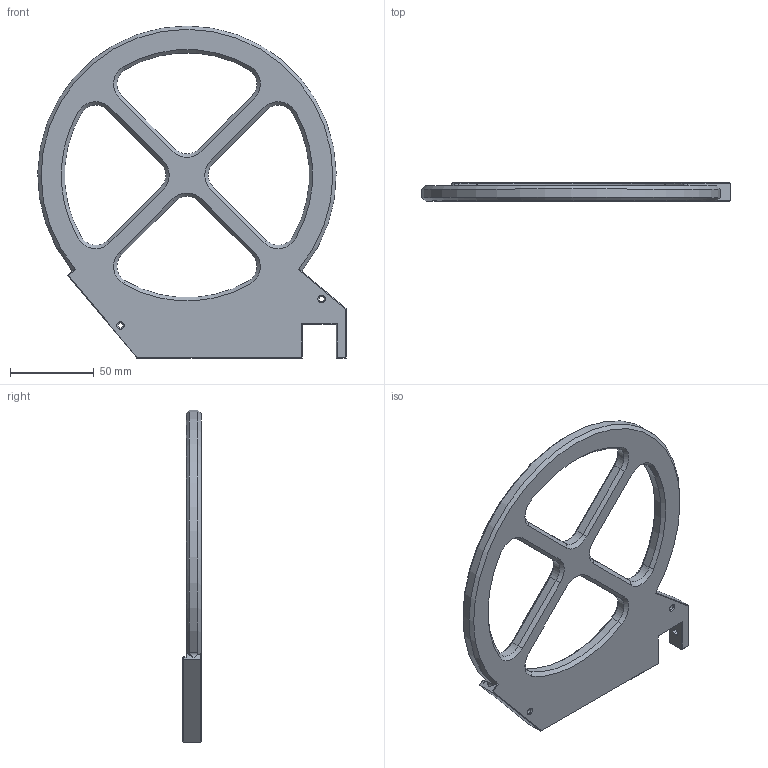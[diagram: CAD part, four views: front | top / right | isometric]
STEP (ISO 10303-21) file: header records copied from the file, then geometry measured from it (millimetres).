
FILE_DESCRIPTION(/* description */ (''),/* implementation_level */ '2;1');
FILE_NAME(/* name */ 'PnP_reel_holder_ends.step',/* time_stamp */ '2026-05-06T23:28:23+08:00',/* author */ (''),/* organization */ (''),/* preprocessor_version */ 'ST-DEVELOPER v20.1',/* originating_system */ 'Autodesk Translation Framework v15.8.0.0',/* authorisation */ '');
FILE_SCHEMA (('AUTOMOTIVE_DESIGN { 1 0 10303 214 3 1 1 }'));
Length unit declared in the file: millimetre
Products named in the file (2): PnP_reel_holder (v2~recovered); Component1
Assembly tree (1 placements, depth 2):
  PnP_reel_holder (v2~recovered)
    Component1
Bounding box: 183.99 x 11 x 198 mm (x, y, z)
Volume: 125411.5 mm3; surface area: 46421.9 mm2
Topology: 1 solids, 1 shells, 232 faces, 542 edges, 314 vertices
Faces by surface type: plane 84, cone 66, cylinder 61, bspline 14, torus 7
Full cylindrical faces by diameter (mm): 3.2 x2
Entity records: 6676 total; most frequent: CARTESIAN_POINT 1255, DIRECTION 1191, ORIENTED_EDGE 1084, EDGE_CURVE 542, AXIS2_PLACEMENT_3D 436, LINE 319, VECTOR 319, VERTEX_POINT 314
